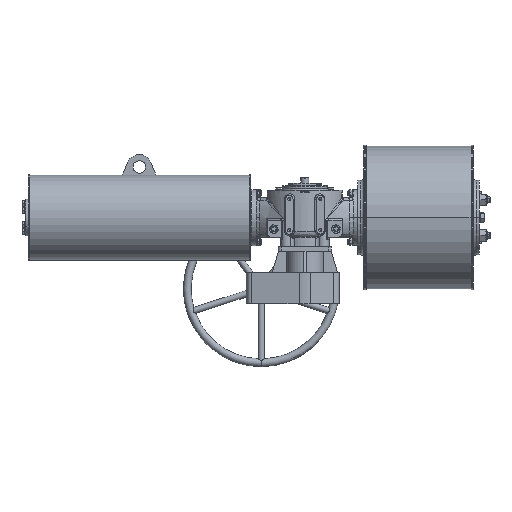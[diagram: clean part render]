
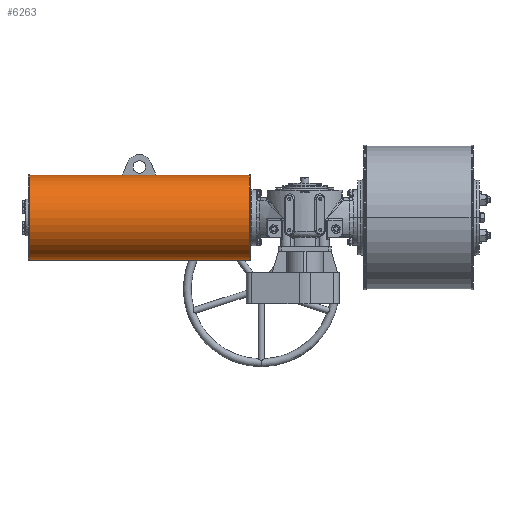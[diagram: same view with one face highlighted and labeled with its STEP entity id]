
A CAD part, front view. The second image highlights one B-rep face of the part: STEP entity #6263.
In plain terms, the highlighted cylindrical face has radius 136.5 mm (diameter 273 mm), a partial arc.
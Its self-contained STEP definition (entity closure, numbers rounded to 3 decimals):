
#731 = DIRECTION ( 'NONE',  ( -1., 0., 0. ) ) ;
#1083 = ORIENTED_EDGE ( 'NONE', *, *, #21972, .T. ) ;
#1668 = CIRCLE ( 'NONE', #58233, 136.5 ) ;
#2367 = AXIS2_PLACEMENT_3D ( 'NONE', #4258, #58614, #9510 ) ;
#3843 = VERTEX_POINT ( 'NONE', #77404 ) ;
#4185 = VERTEX_POINT ( 'NONE', #63256 ) ;
#4258 = CARTESIAN_POINT ( 'NONE',  ( -180.523, 35.296, 2. ) ) ;
#4537 = CARTESIAN_POINT ( 'NONE',  ( -584.523, 30.296, 138.408 ) ) ;
#4685 = CARTESIAN_POINT ( 'NONE',  ( -476.523, 35.296, 2. ) ) ;
#6263 = ADVANCED_FACE ( 'NONE', ( #28041 ), #34852, .T. ) ;
#9075 = VERTEX_POINT ( 'NONE', #65669 ) ;
#9232 = DIRECTION ( 'NONE',  ( 0., 0., 1. ) ) ;
#9510 = DIRECTION ( 'NONE',  ( 0., 0., 1. ) ) ;
#10225 = VERTEX_POINT ( 'NONE', #22712 ) ;
#10808 = CARTESIAN_POINT ( 'NONE',  ( -177.023, -101.204, 2. ) ) ;
#11000 = CIRCLE ( 'NONE', #13537, 136.5 ) ;
#11904 = DIRECTION ( 'NONE',  ( -1., 0., 0. ) ) ;
#12011 = ORIENTED_EDGE ( 'NONE', *, *, #58425, .F. ) ;
#12798 = ORIENTED_EDGE ( 'NONE', *, *, #53294, .T. ) ;
#13537 = AXIS2_PLACEMENT_3D ( 'NONE', #51895, #71608, #9232 ) ;
#15429 = CARTESIAN_POINT ( 'NONE',  ( -177.023, 35.296, 138.5 ) ) ;
#15693 = DIRECTION ( 'NONE',  ( 1., 0., 0. ) ) ;
#16571 = CIRCLE ( 'NONE', #33277, 136.5 ) ;
#17120 = DIRECTION ( 'NONE',  ( -1., 0., 0. ) ) ;
#17602 = CARTESIAN_POINT ( 'NONE',  ( -180.523, 35.296, -134.5 ) ) ;
#19540 = ORIENTED_EDGE ( 'NONE', *, *, #75718, .T. ) ;
#20920 = DIRECTION ( 'NONE',  ( 1., 0., 0. ) ) ;
#21972 = EDGE_CURVE ( 'NONE', #51782, #30182, #62687, .T. ) ;
#22712 = CARTESIAN_POINT ( 'NONE',  ( -177.023, 35.296, -134.5 ) ) ;
#22769 = ORIENTED_EDGE ( 'NONE', *, *, #78128, .T. ) ;
#22808 = EDGE_CURVE ( 'NONE', #3843, #4185, #16571, .T. ) ;
#24436 = VECTOR ( 'NONE', #20920, 1000. ) ;
#26291 = EDGE_LOOP ( 'NONE', ( #32058, #12798, #37518, #71384, #19540, #12011, #1083, #22769, #32621 ) ) ;
#27285 = EDGE_CURVE ( 'NONE', #45965, #9075, #60749, .T. ) ;
#28041 = FACE_OUTER_BOUND ( 'NONE', #26291, .T. ) ;
#28469 = DIRECTION ( 'NONE',  ( 0., -1., 0. ) ) ;
#28557 = CARTESIAN_POINT ( 'NONE',  ( -884.023, 35.296, 2. ) ) ;
#30119 = DIRECTION ( 'NONE',  ( -1., 0., 0. ) ) ;
#30182 = VERTEX_POINT ( 'NONE', #61469 ) ;
#32058 = ORIENTED_EDGE ( 'NONE', *, *, #40362, .F. ) ;
#32621 = ORIENTED_EDGE ( 'NONE', *, *, #22808, .T. ) ;
#32996 = LINE ( 'NONE', #57546, #24436 ) ;
#33277 = AXIS2_PLACEMENT_3D ( 'NONE', #28557, #15693, #40240 ) ;
#34746 = CARTESIAN_POINT ( 'NONE',  ( -476.523, 30.296, 138.408 ) ) ;
#34852 = CYLINDRICAL_SURFACE ( 'NONE', #2367, 136.5 ) ;
#35759 = CARTESIAN_POINT ( 'NONE',  ( -180.523, 35.296, 138.5 ) ) ;
#37518 = ORIENTED_EDGE ( 'NONE', *, *, #40811, .T. ) ;
#38648 = AXIS2_PLACEMENT_3D ( 'NONE', #4685, #52994, #28469 ) ;
#39232 = VECTOR ( 'NONE', #731, 1000. ) ;
#40240 = DIRECTION ( 'NONE',  ( 0., 0., 1. ) ) ;
#40362 = EDGE_CURVE ( 'NONE', #10225, #4185, #78776, .T. ) ;
#40811 = EDGE_CURVE ( 'NONE', #58442, #45965, #1668, .T. ) ;
#41272 = CARTESIAN_POINT ( 'NONE',  ( -177.023, 35.296, 2. ) ) ;
#42879 = DIRECTION ( 'NONE',  ( 0., 1., 0. ) ) ;
#45965 = VERTEX_POINT ( 'NONE', #15429 ) ;
#51782 = VERTEX_POINT ( 'NONE', #4537 ) ;
#51840 = VERTEX_POINT ( 'NONE', #34746 ) ;
#51895 = CARTESIAN_POINT ( 'NONE',  ( -177.023, 35.296, 2. ) ) ;
#52994 = DIRECTION ( 'NONE',  ( 1., 0., 0. ) ) ;
#53294 = EDGE_CURVE ( 'NONE', #10225, #58442, #11000, .T. ) ;
#54125 = DIRECTION ( 'NONE',  ( 0., 0., 1. ) ) ;
#57546 = CARTESIAN_POINT ( 'NONE',  ( -180.523, 30.296, 138.408 ) ) ;
#58233 = AXIS2_PLACEMENT_3D ( 'NONE', #41272, #17120, #54125 ) ;
#58425 = EDGE_CURVE ( 'NONE', #51782, #51840, #32996, .T. ) ;
#58442 = VERTEX_POINT ( 'NONE', #10808 ) ;
#58614 = DIRECTION ( 'NONE',  ( -1., 0., 0. ) ) ;
#60749 = LINE ( 'NONE', #67181, #39232 ) ;
#61469 = CARTESIAN_POINT ( 'NONE',  ( -584.523, 35.296, 138.5 ) ) ;
#62687 = CIRCLE ( 'NONE', #72967, 136.5 ) ;
#63087 = CIRCLE ( 'NONE', #38648, 136.5 ) ;
#63256 = CARTESIAN_POINT ( 'NONE',  ( -884.023, 35.296, -134.5 ) ) ;
#65669 = CARTESIAN_POINT ( 'NONE',  ( -476.523, 35.296, 138.5 ) ) ;
#67147 = LINE ( 'NONE', #35759, #78620 ) ;
#67181 = CARTESIAN_POINT ( 'NONE',  ( -180.523, 35.296, 138.5 ) ) ;
#71384 = ORIENTED_EDGE ( 'NONE', *, *, #27285, .T. ) ;
#71608 = DIRECTION ( 'NONE',  ( -1., 0., 0. ) ) ;
#71980 = DIRECTION ( 'NONE',  ( -1., 0., 0. ) ) ;
#72967 = AXIS2_PLACEMENT_3D ( 'NONE', #73079, #11904, #42879 ) ;
#73079 = CARTESIAN_POINT ( 'NONE',  ( -584.523, 35.296, 2. ) ) ;
#75718 = EDGE_CURVE ( 'NONE', #9075, #51840, #63087, .T. ) ;
#76336 = VECTOR ( 'NONE', #71980, 1000. ) ;
#77404 = CARTESIAN_POINT ( 'NONE',  ( -884.023, 35.296, 138.5 ) ) ;
#78128 = EDGE_CURVE ( 'NONE', #30182, #3843, #67147, .T. ) ;
#78620 = VECTOR ( 'NONE', #30119, 1000. ) ;
#78776 = LINE ( 'NONE', #17602, #76336 ) ;
